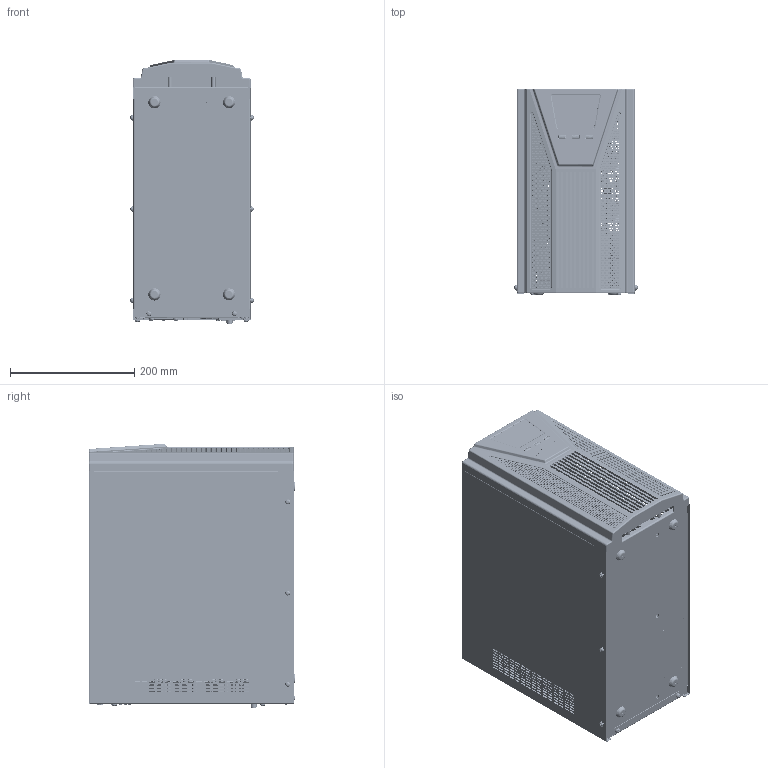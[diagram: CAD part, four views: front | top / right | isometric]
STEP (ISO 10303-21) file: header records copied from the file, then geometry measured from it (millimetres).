
FILE_DESCRIPTION (( 'STEP AP203' ), '1' );
FILE_NAME ('SMALLT3AOPS.STEP', '2025-04-28T12:03:31', ( '' ), ( '' ), 'SwSTEP 2.0', 'SolidWorks 2022', '' );
FILE_SCHEMA (( 'CONFIG_CONTROL_DESIGN' ));
Products named in the file (1): SMALLT3AOPS
Bounding box: 198.72 x 332.56 x 425.91 mm (x, y, z)
Surface area: 1788475.8 mm2 (no closed solid volume)
Topology: 0 solids, 306 shells, 11882 faces, 32083 edges, 20936 vertices
Faces by surface type: plane 6306, cylinder 4092, bspline 913, cone 291, sphere 158, torus 122
Entity records: 450293 total; most frequent: CARTESIAN_POINT 150867, ORIENTED_EDGE 63814, DIRECTION 58236, EDGE_CURVE 31997, VERTEX_POINT 20928, VECTOR 19414, LINE 19414, AXIS2_PLACEMENT_3D 19411
